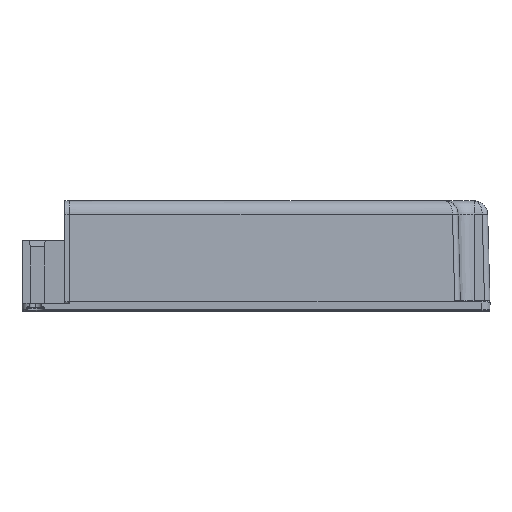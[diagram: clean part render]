
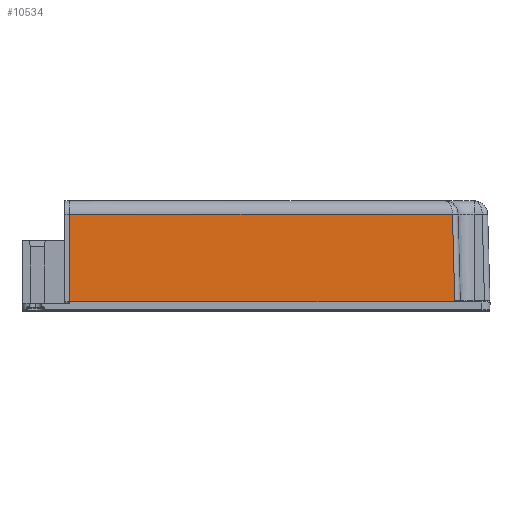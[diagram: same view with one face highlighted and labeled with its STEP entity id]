
A CAD part, top view. The second image highlights one B-rep face of the part: STEP entity #10534.
In plain terms, the highlighted planar face has unit normal (0, 0.026, 1).
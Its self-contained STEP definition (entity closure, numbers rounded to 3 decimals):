
#31 = CARTESIAN_POINT ( 'NONE',  ( 71.378, 3.385, 49.995 ) ) ;
#158 = CARTESIAN_POINT ( 'NONE',  ( 71.394, 3.392, 49.995 ) ) ;
#178 = CARTESIAN_POINT ( 'NONE',  ( -67.699, 3.2, 50. ) ) ;
#210 = CARTESIAN_POINT ( 'NONE',  ( 71.553, 3.459, 49.993 ) ) ;
#278 = CARTESIAN_POINT ( 'NONE',  ( 71.329, 3.366, 49.996 ) ) ;
#366 = ORIENTED_EDGE ( 'NONE', *, *, #1779, .T. ) ;
#835 = VERTEX_POINT ( 'NONE', #8964 ) ;
#908 = LINE ( 'NONE', #6663, #3591 ) ;
#961 = CARTESIAN_POINT ( 'NONE',  ( -67.699, 35.131, 49.164 ) ) ;
#1006 = CARTESIAN_POINT ( 'NONE',  ( 71.388, 3.389, 49.995 ) ) ;
#1134 = CARTESIAN_POINT ( 'NONE',  ( 71.889, 3.624, 49.989 ) ) ;
#1409 = VERTEX_POINT ( 'NONE', #7367 ) ;
#1609 = FACE_OUTER_BOUND ( 'NONE', #10471, .T. ) ;
#1779 = EDGE_CURVE ( 'NONE', #3084, #7015, #11744, .T. ) ;
#2011 = LINE ( 'NONE', #961, #3578 ) ;
#2027 = EDGE_CURVE ( 'NONE', #3084, #835, #10210, .T. ) ;
#2120 = CARTESIAN_POINT ( 'NONE',  ( 71.779, 3.568, 49.99 ) ) ;
#2178 = B_SPLINE_CURVE_WITH_KNOTS ( 'NONE', 3,
 ( #5617, #9573, #3841, #7621, #11474, #278, #10259, #31, #1006, #158, #3769, #210, #9520, #7572, #7505, #2120, #11238, #10495, #1134, #2864, #3957 ),
 .UNSPECIFIED., .F., .F.,
 ( 4, 1, 1, 1, 1, 1, 2, 2, 1, 1, 1, 1, 2, 2, 4 ),
 ( 0., 0.25, 0.375, 0.437, 0.469, 0.484, 0.492, 0.5, 0.625, 0.687, 0.719, 0.734, 0.742, 0.75, 1. ),
 .UNSPECIFIED. ) ;
#2359 = EDGE_CURVE ( 'NONE', #1409, #11120, #908, .T. ) ;
#2864 = CARTESIAN_POINT ( 'NONE',  ( 72.018, 3.693, 49.987 ) ) ;
#2937 = CARTESIAN_POINT ( 'NONE',  ( -67.699, 3.2, 50. ) ) ;
#3084 = VERTEX_POINT ( 'NONE', #178 ) ;
#3295 = CARTESIAN_POINT ( 'NONE',  ( 71.365, 35.131, 49.164 ) ) ;
#3370 = DIRECTION ( 'NONE',  ( 1., 0., 0. ) ) ;
#3555 = EDGE_CURVE ( 'NONE', #11120, #835, #2011, .T. ) ;
#3578 = VECTOR ( 'NONE', #4706, 1000. ) ;
#3591 = VECTOR ( 'NONE', #4653, 1000. ) ;
#3769 = CARTESIAN_POINT ( 'NONE',  ( 71.458, 3.418, 49.994 ) ) ;
#3841 = CARTESIAN_POINT ( 'NONE',  ( 70.87, 3.224, 49.999 ) ) ;
#3957 = CARTESIAN_POINT ( 'NONE',  ( 72.185, 3.784, 49.985 ) ) ;
#4227 = ORIENTED_EDGE ( 'NONE', *, *, #2027, .F. ) ;
#4297 = CARTESIAN_POINT ( 'NONE',  ( 79.2, 3.2, 50. ) ) ;
#4653 = DIRECTION ( 'NONE',  ( -0.026, 0.999, -0.026 ) ) ;
#4706 = DIRECTION ( 'NONE',  ( -1., 0., 0. ) ) ;
#4766 = VECTOR ( 'NONE', #5692, 1000. ) ;
#5226 = ORIENTED_EDGE ( 'NONE', *, *, #3555, .T. ) ;
#5424 = CARTESIAN_POINT ( 'NONE',  ( 79.2, 3.2, 50. ) ) ;
#5478 = DIRECTION ( 'NONE',  ( 0., 0.026, 1. ) ) ;
#5617 = CARTESIAN_POINT ( 'NONE',  ( 70.542, 3.2, 50. ) ) ;
#5692 = DIRECTION ( 'NONE',  ( 0., 1., -0.026 ) ) ;
#6663 = CARTESIAN_POINT ( 'NONE',  ( 72.205, 3.017, 50.005 ) ) ;
#6907 = VECTOR ( 'NONE', #3370, 1000. ) ;
#7015 = VERTEX_POINT ( 'NONE', #9431 ) ;
#7367 = CARTESIAN_POINT ( 'NONE',  ( 72.185, 3.784, 49.985 ) ) ;
#7505 = CARTESIAN_POINT ( 'NONE',  ( 71.765, 3.561, 49.991 ) ) ;
#7572 = CARTESIAN_POINT ( 'NONE',  ( 71.734, 3.546, 49.991 ) ) ;
#7621 = CARTESIAN_POINT ( 'NONE',  ( 71.127, 3.295, 49.998 ) ) ;
#7891 = ORIENTED_EDGE ( 'NONE', *, *, #2359, .T. ) ;
#8964 = CARTESIAN_POINT ( 'NONE',  ( -67.699, 35.131, 49.164 ) ) ;
#9161 = EDGE_CURVE ( 'NONE', #7015, #1409, #2178, .T. ) ;
#9195 = DIRECTION ( 'NONE',  ( 1., 0., 0. ) ) ;
#9431 = CARTESIAN_POINT ( 'NONE',  ( 70.542, 3.2, 50. ) ) ;
#9440 = AXIS2_PLACEMENT_3D ( 'NONE', #5424, #5478, #9195 ) ;
#9520 = CARTESIAN_POINT ( 'NONE',  ( 71.672, 3.515, 49.992 ) ) ;
#9573 = CARTESIAN_POINT ( 'NONE',  ( 70.669, 3.2, 50. ) ) ;
#10111 = PLANE ( 'NONE',  #9440 ) ;
#10210 = LINE ( 'NONE', #2937, #4766 ) ;
#10259 = CARTESIAN_POINT ( 'NONE',  ( 71.363, 3.379, 49.995 ) ) ;
#10471 = EDGE_LOOP ( 'NONE', ( #366, #11864, #7891, #5226, #4227 ) ) ;
#10495 = CARTESIAN_POINT ( 'NONE',  ( 71.794, 3.576, 49.99 ) ) ;
#10534 = ADVANCED_FACE ( 'NONE', ( #1609 ), #10111, .T. ) ;
#11120 = VERTEX_POINT ( 'NONE', #3295 ) ;
#11238 = CARTESIAN_POINT ( 'NONE',  ( 71.788, 3.573, 49.99 ) ) ;
#11474 = CARTESIAN_POINT ( 'NONE',  ( 71.261, 3.34, 49.996 ) ) ;
#11744 = LINE ( 'NONE', #4297, #6907 ) ;
#11864 = ORIENTED_EDGE ( 'NONE', *, *, #9161, .T. ) ;
